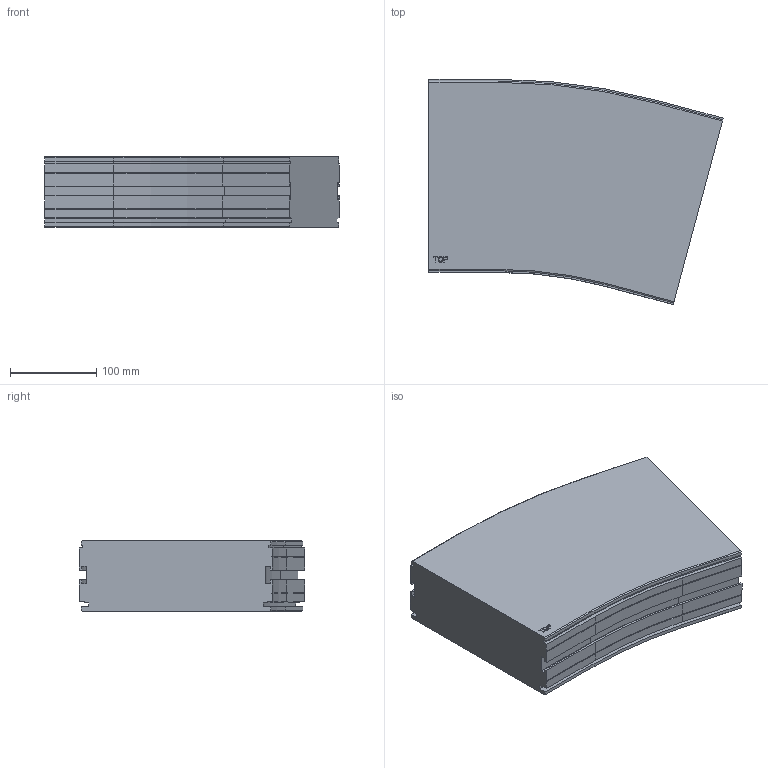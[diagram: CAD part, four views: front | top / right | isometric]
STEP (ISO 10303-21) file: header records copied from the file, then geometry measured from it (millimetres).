
FILE_DESCRIPTION((''),'2;1');
FILE_NAME('C:\Vault Klient\Projekt\Koncept konstruktion\Serie 220 Balk\220-5330.stp','2009-11-27T14:53:38',('Mathias'),(''),'Autodesk Inventor 2010','Autodesk Inventor 2010','');
FILE_SCHEMA(('AUTOMOTIVE_DESIGN { 1 0 10303 214 1 1 1 1 }'));
Length unit declared in the file: millimetre
Products named in the file (1): 220-5330
Bounding box: 341.55 x 261.33 x 81.5 mm (x, y, z)
Volume: 5643310.2 mm3; surface area: 264419 mm2
Topology: 1 solids, 1 shells, 165 faces, 442 edges, 284 vertices
Faces by surface type: plane 115, cylinder 24, bspline 14, cone 12
Entity records: 5279 total; most frequent: CARTESIAN_POINT 1134, ORIENTED_EDGE 884, DIRECTION 774, EDGE_CURVE 442, VECTOR 358, LINE 358, VERTEX_POINT 284, AXIS2_PLACEMENT_3D 208
